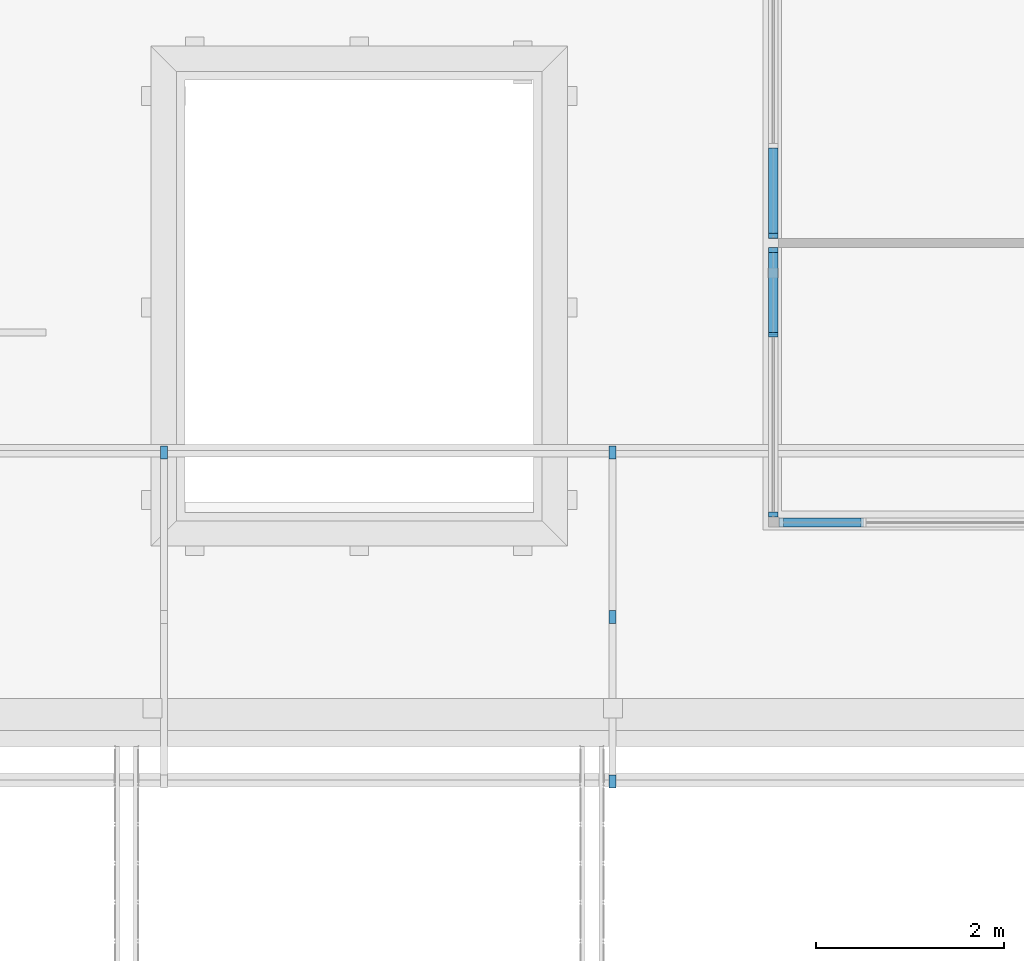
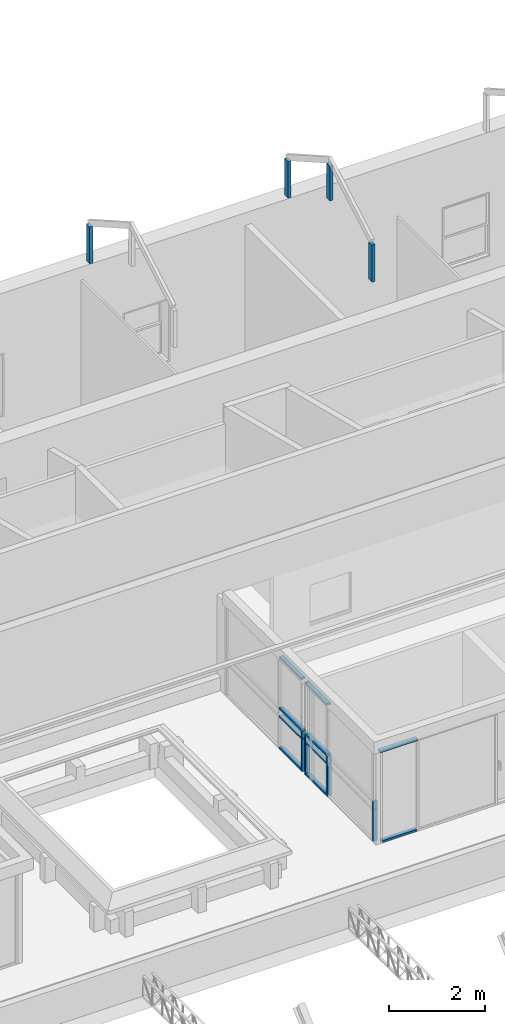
# One storey, part 65 of 153: 25 members, 5 elements without a shape of their own.
"""IFC4 building model written with IfcOpenShell, lengths in metres."""

from ifc_helpers import new_model, entity, si_unit, converted_unit, derived_unit, direction, frame, origin, place, context, subcontext, project, spatial, indexed_curve, outline, extrude, source, transform, mapped, material, type_object, type_shapes, element, aggregate, save


model = new_model("IFC4")

# Units and contexts
model_context = context("Model", 3, precision=1e-05, world=origin(), true_north=direction((6.123031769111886e-17, 1.0)))
body_context = subcontext(model_context, "Body", "Model", "MODEL_VIEW")
ifc_project = project(units=[si_unit("LENGTHUNIT", "METRE"), si_unit("AREAUNIT", "SQUARE_METRE"), si_unit("VOLUMEUNIT", "CUBIC_METRE"), converted_unit("PLANEANGLEUNIT", "DEGREE", entity("IfcRatioMeasure", 0.017453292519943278), si_unit("PLANEANGLEUNIT", "RADIAN"), dimensions=[0, 0, 0, 0, 0, 0, 0]), si_unit("MASSUNIT", "GRAM", prefix="KILO"), derived_unit("MASSDENSITYUNIT", [(si_unit("MASSUNIT", "GRAM", prefix="KILO"), 1), (si_unit("LENGTHUNIT", "METRE"), -3)]), derived_unit("MOMENTOFINERTIAUNIT", [(si_unit("LENGTHUNIT", "METRE"), 4)]), si_unit("TIMEUNIT", "SECOND"), si_unit("FREQUENCYUNIT", "HERTZ"), si_unit("THERMODYNAMICTEMPERATUREUNIT", "DEGREE_CELSIUS"), derived_unit("THERMALTRANSMITTANCEUNIT", [(si_unit("MASSUNIT", "GRAM", prefix="KILO"), 1), (si_unit("THERMODYNAMICTEMPERATUREUNIT", "KELVIN"), -1), (si_unit("TIMEUNIT", "SECOND"), -3)]), derived_unit("VOLUMETRICFLOWRATEUNIT", [(si_unit("LENGTHUNIT", "METRE"), 3), (si_unit("TIMEUNIT", "SECOND"), -1)]), derived_unit("MASSFLOWRATEUNIT", [(si_unit("MASSUNIT", "GRAM", prefix="KILO"), 1), (si_unit("TIMEUNIT", "SECOND"), -1)]), derived_unit("ROTATIONALFREQUENCYUNIT", [(si_unit("TIMEUNIT", "SECOND"), -1)]), si_unit("ELECTRICCURRENTUNIT", "AMPERE"), si_unit("ELECTRICVOLTAGEUNIT", "VOLT"), si_unit("POWERUNIT", "WATT"), si_unit("FORCEUNIT", "NEWTON", prefix="KILO"), si_unit("ILLUMINANCEUNIT", "LUX"), si_unit("LUMINOUSFLUXUNIT", "LUMEN"), si_unit("LUMINOUSINTENSITYUNIT", "CANDELA"), derived_unit("USERDEFINED", [(si_unit("MASSUNIT", "GRAM", prefix="KILO"), -1), (si_unit("LENGTHUNIT", "METRE"), -2), (si_unit("TIMEUNIT", "SECOND"), 3), (si_unit("LUMINOUSFLUXUNIT", "LUMEN"), 1)]), derived_unit("SOUNDPOWERUNIT", [(si_unit("MASSUNIT", "GRAM", prefix="KILO"), 1), (si_unit("LENGTHUNIT", "METRE"), 2), (si_unit("TIMEUNIT", "SECOND"), -3)]), derived_unit("SOUNDPRESSUREUNIT", [(si_unit("MASSUNIT", "GRAM", prefix="KILO"), 1), (si_unit("LENGTHUNIT", "METRE"), -1), (si_unit("TIMEUNIT", "SECOND"), -2)]), derived_unit("LINEARVELOCITYUNIT", [(si_unit("LENGTHUNIT", "METRE"), 1), (si_unit("TIMEUNIT", "SECOND"), -1)]), si_unit("PRESSUREUNIT", "PASCAL"), derived_unit("USERDEFINED", [(si_unit("LENGTHUNIT", "METRE"), -2), (si_unit("MASSUNIT", "GRAM", prefix="KILO"), 1), (si_unit("TIMEUNIT", "SECOND"), -2)]), derived_unit("LINEARFORCEUNIT", [(si_unit("MASSUNIT", "GRAM", prefix="KILO"), 1), (si_unit("LENGTHUNIT", "METRE"), 1), (si_unit("TIMEUNIT", "SECOND"), -2), (si_unit("LENGTHUNIT", "METRE"), -1)]), derived_unit("PLANARFORCEUNIT", [(si_unit("MASSUNIT", "GRAM", prefix="KILO"), 1), (si_unit("LENGTHUNIT", "METRE"), 1), (si_unit("TIMEUNIT", "SECOND"), -2), (si_unit("LENGTHUNIT", "METRE"), -2)])], contexts=[model_context])

# Site, building, storey
site_placement = place(None, origin())
site = spatial("IfcSite", under=ifc_project, at=site_placement, Name="Superficie", CompositionType="ELEMENT")
building_placement = place(site_placement, origin())
building = spatial("IfcBuilding", under=site, at=building_placement, CompositionType="ELEMENT")
storey_placement = place(building_placement, frame((0.0, 0.0, 3.5999999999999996)))
storey = spatial("IfcBuildingStorey", under=building, at=storey_placement, Name="Nivel 1", CompositionType="ELEMENT", Elevation=3.5999999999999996)

# Curtain wall, members
curtain_wall_type = type_object("IfcCurtainWallType", Name="Muro cortina:Muro cortina - simple", PredefinedType="NOTDEFINED")
curtain_wall_1_placement = place(storey_placement, frame((0.0, 0.0, -3.5999999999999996)))
curtain_wall_1 = element("IfcCurtainWall", 1, at=curtain_wall_1_placement, inside=storey, type_object=curtain_wall_type, Name="Muro cortina:Muro cortina - simple", ObjectType="Muro cortina:Muro cortina - simple", PredefinedType="NOTDEFINED")
ifc_material_1 = material(Name="<Unnamed>")
member_type_1 = type_object("IfcMemberType", Name="Montante rectangular:Montante rectangular - 5 x 10 cm", PredefinedType="MULLION", material=ifc_material_1)
shared_shape_1 = source(origin(), body_context, "Body", "SweptSolid", [
    extrude(outline(indexed_curve([(-0.05, -0.025), (0.05, -0.025), (0.05, 0.025), (-0.05, 0.025), (-0.05, -0.025)], self_intersect=False)), frame((0.0, 0.0, -0.8500000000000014), z_axis=(0.0, 0.0, 1.0), x_axis=(0.0, -1.0, 0.0)), (0.0, 0.0, 1.0), 0.849999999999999),
])
type_shapes(member_type_1, [shared_shape_1])
member_1_placement = place(curtain_wall_1_placement, frame((3.091799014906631, 1.9220831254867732, 3.619999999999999), z_axis=(0.0, 1.0, 0.0), x_axis=(0.0, 0.0, 1.0)))
member_1 = element("IfcMember", 2, at=member_1_placement, type_object=member_type_1, material=ifc_material_1, Name="Montante rectangular:Montante rectangular - 5 x 10 cm", ObjectType="Montante rectangular:Montante rectangular - 5 x 10 cm", PredefinedType="MULLION", context=body_context, shape_type="MappedRepresentation", body=[
    mapped(shared_shape_1, transform((0.0, 0.0, 0.0), scale=1.0)),
])
member_2_placement = place(curtain_wall_1_placement, frame((3.091799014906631, 1.9220831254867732, 4.63), z_axis=(0.0, 1.0, 0.0), x_axis=(0.0, 0.0, 1.0)))
member_2 = element("IfcMember", 3, at=member_2_placement, type_object=member_type_1, material=ifc_material_1, Name="Montante rectangular:Montante rectangular - 5 x 10 cm", ObjectType="Montante rectangular:Montante rectangular - 5 x 10 cm", PredefinedType="MULLION", context=body_context, shape_type="MappedRepresentation", body=[
    mapped(shared_shape_1, transform((0.0, 0.0, 0.0), scale=1.0)),
])
member_type_2 = type_object("IfcMemberType", Name="Montante rectangular:Montante rectangular - 5 x 10 cm", PredefinedType="MULLION", material=ifc_material_1)
shared_shape_2 = source(origin(), body_context, "Body", "SweptSolid", [
    extrude(outline(indexed_curve([(-0.05, -0.025), (0.05, -0.025), (0.05, 0.025), (-0.05, 0.025), (-0.05, -0.025)], self_intersect=False)), frame((0.0, 0.0, -0.8500000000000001), z_axis=(0.0, 0.0, 1.0), x_axis=(0.0, -1.0, 0.0)), (0.0, 0.0, 1.0), 0.8500000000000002),
])
type_shapes(member_type_2, [shared_shape_2])
member_3_placement = place(curtain_wall_1_placement, frame((3.091799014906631, 1.9220831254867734, 4.43), z_axis=(0.0, 1.0, 0.0), x_axis=(0.0, 0.0, 1.0)))
member_3 = element("IfcMember", 4, at=member_3_placement, type_object=member_type_2, material=ifc_material_1, Name="Montante rectangular:Montante rectangular - 5 x 10 cm", ObjectType="Montante rectangular:Montante rectangular - 5 x 10 cm", PredefinedType="MULLION", context=body_context, shape_type="MappedRepresentation", body=[
    mapped(shared_shape_2, transform((0.0, 0.0, 0.0), scale=1.0)),
])
member_type_3 = type_object("IfcMemberType", Name="Montante rectangular:Montante rectangular - 5 x 10 cm", PredefinedType="MULLION", material=ifc_material_1)
shared_shape_3 = source(origin(), body_context, "Body", "SweptSolid", [
    extrude(outline(indexed_curve([(-0.05, -0.025), (0.05, -0.025), (0.05, 0.025), (-0.05, 0.025), (-0.05, -0.025)], self_intersect=False)), frame((0.0, 0.0, -0.19999999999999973), z_axis=(0.0, 0.0, 1.0), x_axis=(0.0, -1.0, 0.0)), (0.0, 0.0, 1.0), 0.19999999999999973),
])
type_shapes(member_type_3, [shared_shape_3])
member_4_placement = place(curtain_wall_1_placement, frame((3.091799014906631, 1.0470831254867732, 4.43), z_axis=(0.0, 0.0, -1.0), x_axis=(0.0, 1.0, 0.0)))
member_4 = element("IfcMember", 5, at=member_4_placement, type_object=member_type_3, material=ifc_material_1, Name="Montante rectangular:Montante rectangular - 5 x 10 cm", ObjectType="Montante rectangular:Montante rectangular - 5 x 10 cm", PredefinedType="MULLION", context=body_context, shape_type="MappedRepresentation", body=[
    mapped(shared_shape_3, transform((0.0, 0.0, 0.0), scale=1.0)),
])

# Curtain wall, member
curtain_wall_2_placement = place(storey_placement, frame((0.0, 0.0, -3.5999999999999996)))
curtain_wall_2 = element("IfcCurtainWall", 6, at=curtain_wall_2_placement, inside=storey, type_object=curtain_wall_type, Name="Muro cortina:Muro cortina - simple", ObjectType="Muro cortina:Muro cortina - simple", PredefinedType="NOTDEFINED")
member_5_placement = place(curtain_wall_2_placement, frame((3.091799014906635, 2.097083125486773, 4.43), z_axis=(0.0, 0.0, -1.0), x_axis=(0.0, 1.0, 0.0)))
member_5 = element("IfcMember", 7, at=member_5_placement, type_object=member_type_3, material=ifc_material_1, Name="Montante rectangular:Montante rectangular - 5 x 10 cm", ObjectType="Montante rectangular:Montante rectangular - 5 x 10 cm", PredefinedType="MULLION", context=body_context, shape_type="MappedRepresentation", body=[
    mapped(shared_shape_3, transform((0.0, 0.0, 0.0), scale=1.0)),
])

# Member
member_type_4 = type_object("IfcMemberType", Name="Montante rectangular:Montante rectangular - 5 x 10 cm", PredefinedType="MULLION", material=ifc_material_1)
shared_shape_4 = source(origin(), body_context, "Body", "SweptSolid", [
    extrude(outline(indexed_curve([(-0.05, -0.025), (0.05, -0.025), (0.05, 0.025), (-0.05, 0.025), (-0.05, -0.025)], self_intersect=False)), frame((0.0, 0.0, -0.8350000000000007), z_axis=(0.0, 0.0, 1.0), x_axis=(0.0, -1.0, 0.0)), (0.0, 0.0, 1.0), 0.8350000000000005),
])
type_shapes(member_type_4, [shared_shape_4])
member_6_placement = place(curtain_wall_1_placement, frame((3.091799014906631, 1.047083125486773, 3.5949999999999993), z_axis=(0.0, 0.0, -1.0), x_axis=(0.0, 1.0, 0.0)))
member_6 = element("IfcMember", 8, at=member_6_placement, type_object=member_type_4, material=ifc_material_1, Name="Montante rectangular:Montante rectangular - 5 x 10 cm", ObjectType="Montante rectangular:Montante rectangular - 5 x 10 cm", PredefinedType="MULLION", context=body_context, shape_type="MappedRepresentation", body=[
    mapped(shared_shape_4, transform((0.0, 0.0, 0.0), scale=1.0)),
])

member_7_placement = place(curtain_wall_2_placement, frame((3.091799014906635, 2.097083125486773, 3.5949999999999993), z_axis=(0.0, 0.0, -1.0), x_axis=(0.0, 1.0, 0.0)))
member_7 = element("IfcMember", 9, at=member_7_placement, type_object=member_type_4, material=ifc_material_1, Name="Montante rectangular:Montante rectangular - 5 x 10 cm", ObjectType="Montante rectangular:Montante rectangular - 5 x 10 cm", PredefinedType="MULLION", context=body_context, shape_type="MappedRepresentation", body=[
    mapped(shared_shape_4, transform((0.0, 0.0, 0.0), scale=1.0)),
])

member_type_5 = type_object("IfcMemberType", Name="Montante rectangular:Montante rectangular - 5 x 10 cm", PredefinedType="MULLION", material=ifc_material_1)
shared_shape_5 = source(origin(), body_context, "Body", "SweptSolid", [
    extrude(outline(indexed_curve([(-0.05, -0.025), (0.05, -0.025), (0.05, 0.025), (-0.05, 0.025), (-0.05, -0.025)], self_intersect=False)), frame((0.0, 0.0, -0.8350000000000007), z_axis=(0.0, 0.0, 1.0), x_axis=(0.0, -1.0, 0.0)), (0.0, 0.0, 1.0), 0.8350000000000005),
])
type_shapes(member_type_5, [shared_shape_5])
member_8_placement = place(curtain_wall_1_placement, frame((3.091799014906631, 1.947083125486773, 3.5949999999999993), z_axis=(0.0, 0.0, -1.0), x_axis=(0.0, 1.0, 0.0)))
member_8 = element("IfcMember", 10, at=member_8_placement, type_object=member_type_5, material=ifc_material_1, Name="Montante rectangular:Montante rectangular - 5 x 10 cm", ObjectType="Montante rectangular:Montante rectangular - 5 x 10 cm", PredefinedType="MULLION", context=body_context, shape_type="MappedRepresentation", body=[
    mapped(shared_shape_5, transform((0.0, 0.0, 0.0), scale=1.0)),
])

member_type_6 = type_object("IfcMemberType", Name="Montante rectangular:Montante rectangular - 5 x 10 cm", PredefinedType="MULLION", material=ifc_material_1)
shared_shape_6 = source(origin(), body_context, "Body", "SweptSolid", [
    extrude(outline(indexed_curve([(-0.05, -0.025), (0.05, -0.025), (0.05, 0.025), (-0.05, 0.025), (-0.05, -0.025)], self_intersect=False)), frame((-0.025, 0.0, -0.19999999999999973), z_axis=(0.0, 0.0, 1.0), x_axis=(0.0, -1.0, 0.0)), (0.0, 0.0, 1.0), 0.19999999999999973),
])
type_shapes(member_type_6, [shared_shape_6])
member_9_placement = place(curtain_wall_1_placement, frame((3.091799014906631, -0.8929168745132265, 4.63), z_axis=(0.0, 0.0, 1.0), x_axis=(0.0, -1.0, 0.0)))
member_9 = element("IfcMember", 11, at=member_9_placement, type_object=member_type_6, material=ifc_material_1, Name="Montante rectangular:Montante rectangular - 5 x 10 cm", ObjectType="Montante rectangular:Montante rectangular - 5 x 10 cm", PredefinedType="MULLION", context=body_context, shape_type="MappedRepresentation", body=[
    mapped(shared_shape_6, transform((0.0, 0.0, 0.0), scale=1.0)),
])

member_type_7 = type_object("IfcMemberType", Name="Montante rectangular:Montante rectangular - 5 x 10 cm", PredefinedType="MULLION", material=ifc_material_1)
shared_shape_7 = source(origin(), body_context, "Body", "SweptSolid", [
    extrude(outline(indexed_curve([(-0.05, -0.025), (0.05, -0.025), (0.05, 0.025), (-0.05, 0.025), (-0.05, -0.025)], self_intersect=False)), frame((0.0, 0.0, -0.07000000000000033), z_axis=(0.0, 0.0, 1.0), x_axis=(0.0, -1.0, 0.0)), (0.0, 0.0, 1.0), 0.07000000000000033),
])
type_shapes(member_type_7, [shared_shape_7])
member_10_placement = place(curtain_wall_1_placement, frame((3.091799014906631, 1.947083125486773, 5.879999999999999), z_axis=(0.0, 0.0, -1.0), x_axis=(0.0, 1.0, 0.0)))
member_10 = element("IfcMember", 12, at=member_10_placement, type_object=member_type_7, material=ifc_material_1, Name="Montante rectangular:Montante rectangular - 5 x 10 cm", ObjectType="Montante rectangular:Montante rectangular - 5 x 10 cm", PredefinedType="MULLION", context=body_context, shape_type="MappedRepresentation", body=[
    mapped(shared_shape_7, transform((0.0, 0.0, 0.0), scale=1.0)),
])

member_type_8 = type_object("IfcMemberType", Name="Montante rectangular:Montante rectangular - 5 x 10 cm", PredefinedType="MULLION", material=ifc_material_1)
shared_shape_8 = source(origin(), body_context, "Body", "SweptSolid", [
    extrude(outline(indexed_curve([(-0.05, -0.025), (0.05, -0.025), (0.05, 0.025), (-0.05, 0.025), (-0.05, -0.025)], self_intersect=False)), frame((-0.025, 0.0, -0.8099999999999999), z_axis=(0.0, 0.0, 1.0), x_axis=(0.0, -1.0, 0.0)), (0.0, 0.0, 1.0), 0.8099999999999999),
])
type_shapes(member_type_8, [shared_shape_8])
member_11_placement = place(curtain_wall_1_placement, frame((3.091799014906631, -0.8929168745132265, 4.43), z_axis=(0.0, 0.0, 1.0), x_axis=(0.0, -1.0, 0.0)))
member_11 = element("IfcMember", 13, at=member_11_placement, type_object=member_type_8, material=ifc_material_1, Name="Montante rectangular:Montante rectangular - 5 x 10 cm", ObjectType="Montante rectangular:Montante rectangular - 5 x 10 cm", PredefinedType="MULLION", context=body_context, shape_type="MappedRepresentation", body=[
    mapped(shared_shape_8, transform((0.0, 0.0, 0.0), scale=1.0)),
])

member_12_placement = place(curtain_wall_2_placement, frame((3.091799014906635, 2.077083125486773, 4.43), z_axis=(0.0, 0.0, 1.0), x_axis=(0.0, -1.0, 0.0)))
member_12 = element("IfcMember", 14, at=member_12_placement, type_object=member_type_8, material=ifc_material_1, Name="Montante rectangular:Montante rectangular - 5 x 10 cm", ObjectType="Montante rectangular:Montante rectangular - 5 x 10 cm", PredefinedType="MULLION", context=body_context, shape_type="MappedRepresentation", body=[
    mapped(shared_shape_8, transform((0.0, 0.0, 0.0), scale=1.0)),
])

member_type_9 = type_object("IfcMemberType", Name="Montante rectangular:Montante rectangular - 5 x 10 cm", PredefinedType="MULLION", material=ifc_material_1)
shared_shape_9 = source(origin(), body_context, "Body", "SweptSolid", [
    extrude(outline(indexed_curve([(-0.05, -0.025), (0.05, -0.025), (0.05, 0.025), (-0.05, 0.025), (-0.05, -0.025)], self_intersect=False)), frame((-0.025, 0.0, -0.8750000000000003), z_axis=(0.0, 0.0, 1.0), x_axis=(0.0, -1.0, 0.0)), (0.0, 0.0, 1.0), 0.8750000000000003),
])
type_shapes(member_type_9, [shared_shape_9])
member_13_placement = place(curtain_wall_1_placement, frame((3.091799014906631, 1.9220831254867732, 5.949999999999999), z_axis=(0.0, 1.0, 0.0), x_axis=(0.0, 0.0, 1.0)))
member_13 = element("IfcMember", 15, at=member_13_placement, type_object=member_type_9, material=ifc_material_1, Name="Montante rectangular:Montante rectangular - 5 x 10 cm", ObjectType="Montante rectangular:Montante rectangular - 5 x 10 cm", PredefinedType="MULLION", context=body_context, shape_type="MappedRepresentation", body=[
    mapped(shared_shape_9, transform((0.0, 0.0, 0.0), scale=1.0)),
])

member_type_10 = type_object("IfcMemberType", Name="Montante rectangular:Montante rectangular - 5 x 10 cm", PredefinedType="MULLION", material=ifc_material_1)
shared_shape_10 = source(origin(), body_context, "Body", "SweptSolid", [
    extrude(outline(indexed_curve([(-0.05, -0.025), (0.05, -0.025), (0.05, 0.025), (-0.05, 0.025), (-0.05, -0.025)], self_intersect=False)), frame((0.0, 0.0, -0.9099999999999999), z_axis=(0.0, 0.0, 1.0), x_axis=(0.0, -1.0, 0.0)), (0.0, 0.0, 1.0), 0.9099999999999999),
])
type_shapes(member_type_10, [shared_shape_10])
member_14_placement = place(curtain_wall_2_placement, frame((3.091799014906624, 3.032083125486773, 3.619999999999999), z_axis=(0.0, 1.0, 0.0), x_axis=(0.0, 0.0, 1.0)))
member_14 = element("IfcMember", 16, at=member_14_placement, type_object=member_type_10, material=ifc_material_1, Name="Montante rectangular:Montante rectangular - 5 x 10 cm", ObjectType="Montante rectangular:Montante rectangular - 5 x 10 cm", PredefinedType="MULLION", context=body_context, shape_type="MappedRepresentation", body=[
    mapped(shared_shape_10, transform((0.0, 0.0, 0.0), scale=1.0)),
])

member_15_placement = place(curtain_wall_2_placement, frame((3.091799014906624, 3.032083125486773, 4.43), z_axis=(0.0, 1.0, 0.0), x_axis=(0.0, 0.0, 1.0)))
member_15 = element("IfcMember", 17, at=member_15_placement, type_object=member_type_10, material=ifc_material_1, Name="Montante rectangular:Montante rectangular - 5 x 10 cm", ObjectType="Montante rectangular:Montante rectangular - 5 x 10 cm", PredefinedType="MULLION", context=body_context, shape_type="MappedRepresentation", body=[
    mapped(shared_shape_10, transform((0.0, 0.0, 0.0), scale=1.0)),
])

member_16_placement = place(curtain_wall_2_placement, frame((3.091799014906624, 3.032083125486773, 4.63), z_axis=(0.0, 1.0, 0.0), x_axis=(0.0, 0.0, 1.0)))
member_16 = element("IfcMember", 18, at=member_16_placement, type_object=member_type_10, material=ifc_material_1, Name="Montante rectangular:Montante rectangular - 5 x 10 cm", ObjectType="Montante rectangular:Montante rectangular - 5 x 10 cm", PredefinedType="MULLION", context=body_context, shape_type="MappedRepresentation", body=[
    mapped(shared_shape_10, transform((0.0, 0.0, 0.0), scale=1.0)),
])

member_type_11 = type_object("IfcMemberType", Name="Montante rectangular:Montante rectangular - 5 x 10 cm", PredefinedType="MULLION", material=ifc_material_1)
shared_shape_11 = source(origin(), body_context, "Body", "SweptSolid", [
    extrude(outline(indexed_curve([(-0.05, -0.025), (0.05, -0.025), (0.05, 0.025), (-0.05, 0.025), (-0.05, -0.025)], self_intersect=False)), frame((-0.025, 0.0, -0.9099999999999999), z_axis=(0.0, 0.0, 1.0), x_axis=(0.0, -1.0, 0.0)), (0.0, 0.0, 1.0), 0.9099999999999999),
])
type_shapes(member_type_11, [shared_shape_11])
member_17_placement = place(curtain_wall_2_placement, frame((3.091799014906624, 3.032083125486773, 5.949999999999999), z_axis=(0.0, 1.0, 0.0), x_axis=(0.0, 0.0, 1.0)))
member_17 = element("IfcMember", 19, at=member_17_placement, type_object=member_type_11, material=ifc_material_1, Name="Montante rectangular:Montante rectangular - 5 x 10 cm", ObjectType="Montante rectangular:Montante rectangular - 5 x 10 cm", PredefinedType="MULLION", context=body_context, shape_type="MappedRepresentation", body=[
    mapped(shared_shape_11, transform((0.0, 0.0, 0.0), scale=1.0)),
])

member_type_12 = type_object("IfcMemberType", Name="Montante rectangular:Montante rectangular - 5 x 10 cm", PredefinedType="MULLION", material=ifc_material_1)
shared_shape_12 = source(origin(), body_context, "Body", "SweptSolid", [
    extrude(outline(indexed_curve([(-0.05, -0.025), (0.05, -0.025), (0.05, 0.025), (-0.05, 0.025), (-0.05, -0.025)], self_intersect=False)), frame((-0.025, 0.0, -0.2), z_axis=(0.0, 0.0, 1.0), x_axis=(0.0, -1.0, 0.0)), (0.0, 0.0, 1.0), 0.2),
])
type_shapes(member_type_12, [shared_shape_12])
member_18_placement = place(curtain_wall_2_placement, frame((3.091799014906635, 2.077083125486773, 4.63), z_axis=(0.0, 0.0, 1.0), x_axis=(0.0, -1.0, 0.0)))
member_18 = element("IfcMember", 20, at=member_18_placement, type_object=member_type_12, material=ifc_material_1, Name="Montante rectangular:Montante rectangular - 5 x 10 cm", ObjectType="Montante rectangular:Montante rectangular - 5 x 10 cm", PredefinedType="MULLION", context=body_context, shape_type="MappedRepresentation", body=[
    mapped(shared_shape_12, transform((0.0, 0.0, 0.0), scale=1.0)),
])

aggregate(curtain_wall_2, [member_14, member_17, member_12, member_18, member_5, member_7, member_15, member_16])

member_type_13 = type_object("IfcMemberType", Name="Montante rectangular:Montante rectangular - 5 x 10 cm", PredefinedType="MULLION", material=ifc_material_1)
shared_shape_13 = source(origin(), body_context, "Body", "SweptSolid", [
    extrude(outline(indexed_curve([(-0.05, -0.025), (0.05, -0.025), (0.05, 0.025), (-0.05, 0.025), (-0.05, -0.025)], self_intersect=False)), frame((0.0, 0.0, -0.2), z_axis=(0.0, 0.0, 1.0), x_axis=(0.0, -1.0, 0.0)), (0.0, 0.0, 1.0), 0.2),
])
type_shapes(member_type_13, [shared_shape_13])
member_19_placement = place(curtain_wall_1_placement, frame((3.091799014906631, 1.947083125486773, 4.43), z_axis=(0.0, 0.0, -1.0), x_axis=(0.0, 1.0, 0.0)))
member_19 = element("IfcMember", 21, at=member_19_placement, type_object=member_type_13, material=ifc_material_1, Name="Montante rectangular:Montante rectangular - 5 x 10 cm", ObjectType="Montante rectangular:Montante rectangular - 5 x 10 cm", PredefinedType="MULLION", context=body_context, shape_type="MappedRepresentation", body=[
    mapped(shared_shape_13, transform((0.0, 0.0, 0.0), scale=1.0)),
])

aggregate(curtain_wall_1, [member_3, member_19, member_8, member_4, member_6, member_1, member_11, member_9, member_13, member_10, member_2])

# Curtain wall, members
curtain_wall_3_placement = place(storey_placement, frame((0.0, 0.0, -3.5999999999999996)))
curtain_wall_3 = element("IfcCurtainWall", 22, at=curtain_wall_3_placement, inside=storey, type_object=curtain_wall_type, Name="Muro cortina:Muro cortina - simple", ObjectType="Muro cortina:Muro cortina - simple", PredefinedType="NOTDEFINED")
member_type_14 = type_object("IfcMemberType", Name="Montante rectangular:Montante rectangular - 5 x 10 cm", PredefinedType="MULLION", material=ifc_material_1)
shared_shape_14 = source(origin(), body_context, "Body", "SweptSolid", [
    extrude(outline(indexed_curve([(-0.05, -0.025), (0.05, -0.025), (0.05, 0.025), (-0.05, 0.025), (-0.05, -0.025)], self_intersect=False)), frame((-0.025, 0.0, -0.9), z_axis=(0.0, 0.0, 1.0), x_axis=(0.0, -1.0, 0.0)), (0.0, 0.0, 1.0), 0.9),
])
type_shapes(member_type_14, [shared_shape_14])
member_20_placement = place(curtain_wall_3_placement, frame((4.051799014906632, -0.9517564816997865, 5.949999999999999), z_axis=(1.0, 0.0, 0.0), x_axis=(0.0, 0.0, 1.0)))
member_20 = element("IfcMember", 23, at=member_20_placement, type_object=member_type_14, material=ifc_material_1, Name="Montante rectangular:Montante rectangular - 5 x 10 cm", ObjectType="Montante rectangular:Montante rectangular - 5 x 10 cm", PredefinedType="MULLION", context=body_context, shape_type="MappedRepresentation", body=[
    mapped(shared_shape_14, transform((0.0, 0.0, 0.0), scale=1.0)),
])
member_type_15 = type_object("IfcMemberType", Name="Montante rectangular:Montante rectangular - 5 x 10 cm", PredefinedType="MULLION", material=ifc_material_1)
shared_shape_15 = source(origin(), body_context, "Body", "SweptSolid", [
    extrude(outline(indexed_curve([(-0.05, -0.025), (0.05, -0.025), (0.05, 0.025), (-0.05, 0.025), (-0.05, -0.025)], self_intersect=False)), frame((-0.025, 0.0, -0.8250000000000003), z_axis=(0.0, 0.0, 1.0), x_axis=(0.0, -1.0, 0.0)), (0.0, 0.0, 1.0), 0.8250000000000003),
])
type_shapes(member_type_15, [shared_shape_15])
member_21_placement = place(curtain_wall_3_placement, frame((3.2017990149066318, -0.9517564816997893, 3.5999999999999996), z_axis=(-1.0, 0.0, 0.0), x_axis=(0.0, 0.0, -1.0)))
member_21 = element("IfcMember", 24, at=member_21_placement, type_object=member_type_15, material=ifc_material_1, Name="Montante rectangular:Montante rectangular - 5 x 10 cm", ObjectType="Montante rectangular:Montante rectangular - 5 x 10 cm", PredefinedType="MULLION", context=body_context, shape_type="MappedRepresentation", body=[
    mapped(shared_shape_15, transform((0.0, 0.0, 0.0), scale=1.0)),
])
aggregate(curtain_wall_3, [member_20, member_21])

# Assembly, member
assembly_1_placement = place(storey_placement, origin())
assembly_1 = element("IfcElementAssembly", 25, at=assembly_1_placement, inside=storey, Name="Cercha superior:Cercha superior", ObjectType="Cercha superior:Cercha superior", AssemblyPlace="NOTDEFINED", PredefinedType="TRUSS")
ifc_material_2 = material(Name="Madera - Madera de construcción", Category="Madera")
member_type_16 = type_object("IfcMemberType", Name="Glulam-Pino del sur:76X140", PredefinedType="BRACE", material=ifc_material_2)
shared_shape_16 = source(origin(), body_context, "Body", "SweptSolid", [
    extrude(outline(indexed_curve([(-0.06999999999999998, -0.03800000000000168), (0.06999999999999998, -0.03800000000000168), (0.06999999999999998, 0.03800000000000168), (-0.06999999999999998, 0.03800000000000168), (-0.06999999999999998, -0.03800000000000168)], self_intersect=False)), frame((-0.5000000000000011, 0.0, 0.0), z_axis=(1.0, 0.0, 0.0), x_axis=(0.0, 0.0, -1.0)), (0.0, 0.0, 1.0), 0.939000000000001),
])
type_shapes(member_type_16, [shared_shape_16])
member_22_placement = place(building_placement, frame((-3.3880737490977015, -0.20869495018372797, 20.699959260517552), z_axis=(0.0, -1.0, 0.0), x_axis=(0.0, 0.0, 1.0)))
member_22 = element("IfcMember", 26, at=member_22_placement, type_object=member_type_16, material=ifc_material_2, Name="Glulam-Pino del sur:76X140", ObjectType="Glulam-Pino del sur:76X140", PredefinedType="BRACE", context=body_context, shape_type="MappedRepresentation", body=[
    mapped(shared_shape_16, transform((0.0, 0.0, 0.0), scale=1.0)),
])
aggregate(assembly_1, [member_22])

# Assembly, members
assembly_2_placement = place(storey_placement, origin())
assembly_2 = element("IfcElementAssembly", 27, at=assembly_2_placement, inside=storey, Name="Cercha superior:Cercha superior", ObjectType="Cercha superior:Cercha superior", AssemblyPlace="NOTDEFINED", PredefinedType="TRUSS")
member_23_placement = place(building_placement, frame((1.3819262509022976, -0.20869495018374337, 20.699959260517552), z_axis=(0.0, -1.0, 0.0), x_axis=(0.0, 0.0, 1.0)))
member_23 = element("IfcMember", 28, at=member_23_placement, type_object=member_type_16, material=ifc_material_2, Name="Glulam-Pino del sur:76X140", ObjectType="Glulam-Pino del sur:76X140", PredefinedType="BRACE", context=body_context, shape_type="MappedRepresentation", body=[
    mapped(shared_shape_16, transform((0.0, 0.0, 0.0), scale=1.0)),
])
member_type_17 = type_object("IfcMemberType", Name="Glulam-Pino del sur:76X140", PredefinedType="BRACE", material=ifc_material_2)
shared_shape_17 = source(origin(), body_context, "Body", "SweptSolid", [
    extrude(outline(indexed_curve([(-0.06999999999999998, -0.03800000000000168), (0.06999999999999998, -0.03800000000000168), (0.06999999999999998, 0.03800000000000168), (-0.06999999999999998, 0.03800000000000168), (-0.06999999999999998, -0.03800000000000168)], self_intersect=False)), frame((-0.5000000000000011, 0.0, 0.0), z_axis=(1.0, 0.0, 0.0), x_axis=(0.0, 0.0, -1.0)), (0.0, 0.0, 1.0), 0.939000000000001),
])
type_shapes(member_type_17, [shared_shape_17])
member_24_placement = place(building_placement, frame((1.381926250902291, -3.708672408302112, 20.687397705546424), z_axis=(0.0, -1.0, 0.0), x_axis=(0.0, 0.0, 1.0)))
member_24 = element("IfcMember", 29, at=member_24_placement, type_object=member_type_17, material=ifc_material_2, Name="Glulam-Pino del sur:76X140", ObjectType="Glulam-Pino del sur:76X140", PredefinedType="BRACE", context=body_context, shape_type="MappedRepresentation", body=[
    mapped(shared_shape_17, transform((0.0, 0.0, 0.0), scale=1.0)),
])
member_type_18 = type_object("IfcMemberType", Name="Glulam-Pino del sur:76X140", PredefinedType="BRACE", material=ifc_material_2)
shared_shape_18 = source(origin(), body_context, "Body", "SweptSolid", [
    extrude(outline(indexed_curve([(-0.06999999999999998, -0.03800000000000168), (0.06999999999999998, -0.03800000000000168), (0.06999999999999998, 0.03800000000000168), (-0.06999999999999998, 0.03800000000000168), (-0.06999999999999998, -0.03800000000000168)], self_intersect=False)), frame((-0.5000000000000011, 0.0, 0.0), z_axis=(1.0, 0.0, 0.0), x_axis=(0.0, 0.0, -1.0)), (0.0, 0.0, 1.0), 0.8790000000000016),
])
type_shapes(member_type_18, [shared_shape_18])
member_25_placement = place(building_placement, frame((1.3819262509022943, -1.958683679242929, 21.69367848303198), z_axis=(0.0, -1.0, 0.0), x_axis=(0.0, 0.0, 1.0)))
member_25 = element("IfcMember", 30, at=member_25_placement, type_object=member_type_18, material=ifc_material_2, Name="Glulam-Pino del sur:76X140", ObjectType="Glulam-Pino del sur:76X140", PredefinedType="BRACE", context=body_context, shape_type="MappedRepresentation", body=[
    mapped(shared_shape_18, transform((0.0, 0.0, 0.0), scale=1.0)),
])
aggregate(assembly_2, [member_23, member_24, member_25])

save(model, "model.ifc")
